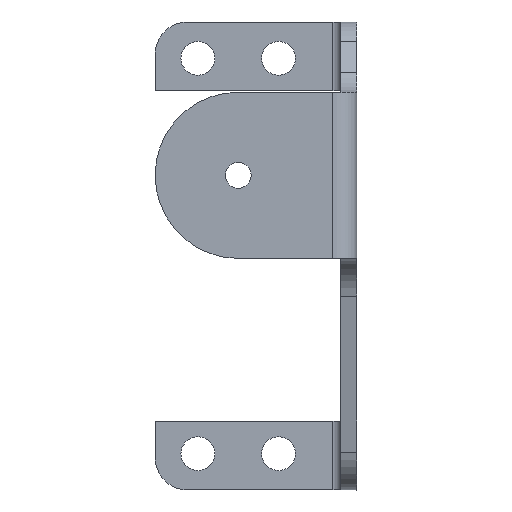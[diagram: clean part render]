
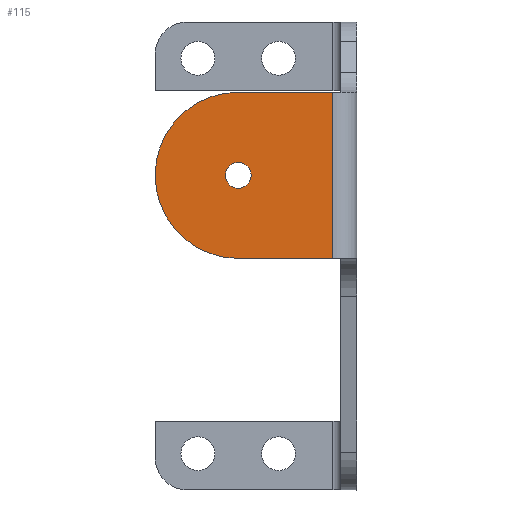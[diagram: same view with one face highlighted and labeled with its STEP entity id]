
A CAD part, left-side view. The second image highlights one B-rep face of the part: STEP entity #115.
In plain terms, the highlighted planar face has unit normal (-1, 0, 0).
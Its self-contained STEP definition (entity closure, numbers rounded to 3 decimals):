
#6 = DIRECTION ( 'NONE',  ( -1., 0., 0. ) ) ;
#12 = CARTESIAN_POINT ( 'NONE',  ( -22.075, 0.6, 22.5 ) ) ;
#42 = CARTESIAN_POINT ( 'NONE',  ( -22.075, 2.2, 22.5 ) ) ;
#115 = ADVANCED_FACE ( 'NONE', ( #1481, #1609 ), #254, .T. ) ;
#161 = VECTOR ( 'NONE', #1670, 1000. ) ;
#182 = EDGE_LOOP ( 'NONE', ( #2176, #1573, #727, #1555, #930 ) ) ;
#238 = EDGE_LOOP ( 'NONE', ( #1669, #786 ) ) ;
#254 = PLANE ( 'NONE',  #1174 ) ;
#273 = CARTESIAN_POINT ( 'NONE',  ( -22.075, -9.5, 12.2 ) ) ;
#275 = CARTESIAN_POINT ( 'NONE',  ( -22.075, 2.2, 32.8 ) ) ;
#344 = CARTESIAN_POINT ( 'NONE',  ( -22.075, 12.5, 32.8 ) ) ;
#395 = CARTESIAN_POINT ( 'NONE',  ( -22.075, 12.5, 22.5 ) ) ;
#399 = AXIS2_PLACEMENT_3D ( 'NONE', #1803, #1088, #890 ) ;
#501 = LINE ( 'NONE', #344, #1287 ) ;
#613 = DIRECTION ( 'NONE',  ( 0., 1., 0. ) ) ;
#656 = EDGE_CURVE ( 'NONE', #1954, #1226, #1601, .T. ) ;
#667 = EDGE_CURVE ( 'NONE', #1620, #872, #691, .T. ) ;
#691 = CIRCLE ( 'NONE', #2091, 1.6 ) ;
#724 = EDGE_CURVE ( 'NONE', #872, #1620, #1136, .T. ) ;
#725 = DIRECTION ( 'NONE',  ( -1., 0., 0. ) ) ;
#727 = ORIENTED_EDGE ( 'NONE', *, *, #656, .T. ) ;
#786 = ORIENTED_EDGE ( 'NONE', *, *, #667, .F. ) ;
#837 = AXIS2_PLACEMENT_3D ( 'NONE', #1029, #6, #2022 ) ;
#872 = VERTEX_POINT ( 'NONE', #1645 ) ;
#890 = DIRECTION ( 'NONE',  ( 0., 1., 0. ) ) ;
#917 = VECTOR ( 'NONE', #1615, 1000. ) ;
#919 = CARTESIAN_POINT ( 'NONE',  ( -22.075, 2.2, 22.5 ) ) ;
#930 = ORIENTED_EDGE ( 'NONE', *, *, #1703, .F. ) ;
#1028 = LINE ( 'NONE', #1709, #161 ) ;
#1029 = CARTESIAN_POINT ( 'NONE',  ( -22.075, 2.2, 22.5 ) ) ;
#1083 = EDGE_CURVE ( 'NONE', #1226, #1824, #1028, .T. ) ;
#1088 = DIRECTION ( 'NONE',  ( -1., 0., 0. ) ) ;
#1124 = DIRECTION ( 'NONE',  ( -1., 0., 0. ) ) ;
#1136 = CIRCLE ( 'NONE', #1921, 1.6 ) ;
#1174 = AXIS2_PLACEMENT_3D ( 'NONE', #1446, #1124, #613 ) ;
#1186 = VERTEX_POINT ( 'NONE', #1905 ) ;
#1210 = LINE ( 'NONE', #1901, #917 ) ;
#1226 = VERTEX_POINT ( 'NONE', #1770 ) ;
#1241 = DIRECTION ( 'NONE',  ( 0., 1., 0. ) ) ;
#1287 = VECTOR ( 'NONE', #1580, 1000. ) ;
#1426 = DIRECTION ( 'NONE',  ( -1., 0., 0. ) ) ;
#1446 = CARTESIAN_POINT ( 'NONE',  ( -22.075, 12.5, 32.8 ) ) ;
#1481 = FACE_BOUND ( 'NONE', #238, .T. ) ;
#1555 = ORIENTED_EDGE ( 'NONE', *, *, #1083, .T. ) ;
#1561 = DIRECTION ( 'NONE',  ( 0., 1., 0. ) ) ;
#1573 = ORIENTED_EDGE ( 'NONE', *, *, #1900, .T. ) ;
#1580 = DIRECTION ( 'NONE',  ( 0., -1., 0. ) ) ;
#1581 = EDGE_CURVE ( 'NONE', #1986, #1186, #501, .T. ) ;
#1601 = CIRCLE ( 'NONE', #837, 10.3 ) ;
#1609 = FACE_OUTER_BOUND ( 'NONE', #182, .T. ) ;
#1615 = DIRECTION ( 'NONE',  ( 0., 0., -1. ) ) ;
#1620 = VERTEX_POINT ( 'NONE', #12 ) ;
#1645 = CARTESIAN_POINT ( 'NONE',  ( -22.075, 3.8, 22.5 ) ) ;
#1669 = ORIENTED_EDGE ( 'NONE', *, *, #724, .F. ) ;
#1670 = DIRECTION ( 'NONE',  ( 0., -1., 0. ) ) ;
#1703 = EDGE_CURVE ( 'NONE', #1186, #1824, #1210, .T. ) ;
#1709 = CARTESIAN_POINT ( 'NONE',  ( -22.075, 12.5, 12.2 ) ) ;
#1770 = CARTESIAN_POINT ( 'NONE',  ( -22.075, 2.2, 12.2 ) ) ;
#1803 = CARTESIAN_POINT ( 'NONE',  ( -22.075, 2.2, 22.5 ) ) ;
#1824 = VERTEX_POINT ( 'NONE', #273 ) ;
#1900 = EDGE_CURVE ( 'NONE', #1986, #1954, #1909, .T. ) ;
#1901 = CARTESIAN_POINT ( 'NONE',  ( -22.075, -9.5, 32.8 ) ) ;
#1905 = CARTESIAN_POINT ( 'NONE',  ( -22.075, -9.5, 32.8 ) ) ;
#1909 = CIRCLE ( 'NONE', #399, 10.3 ) ;
#1921 = AXIS2_PLACEMENT_3D ( 'NONE', #42, #725, #1561 ) ;
#1954 = VERTEX_POINT ( 'NONE', #395 ) ;
#1986 = VERTEX_POINT ( 'NONE', #275 ) ;
#2022 = DIRECTION ( 'NONE',  ( 0., 1., 0. ) ) ;
#2091 = AXIS2_PLACEMENT_3D ( 'NONE', #919, #1426, #1241 ) ;
#2176 = ORIENTED_EDGE ( 'NONE', *, *, #1581, .F. ) ;
